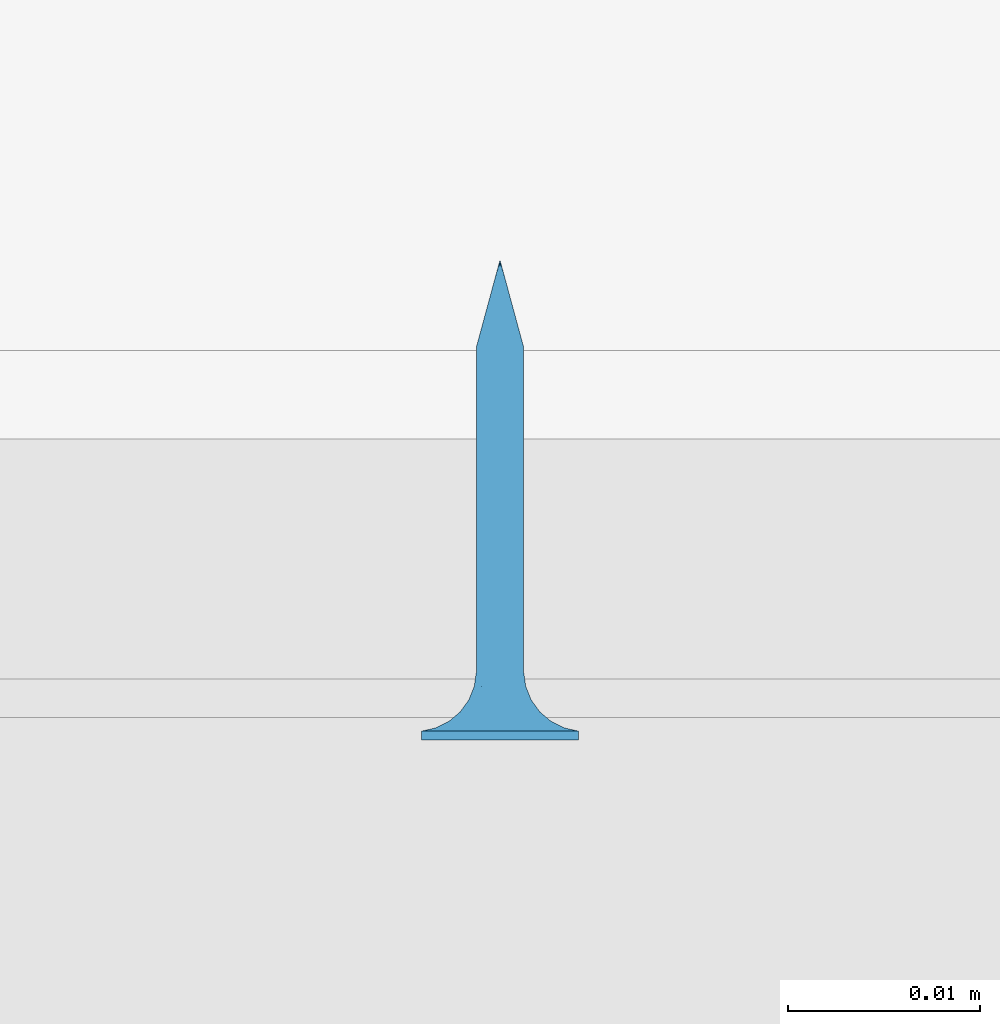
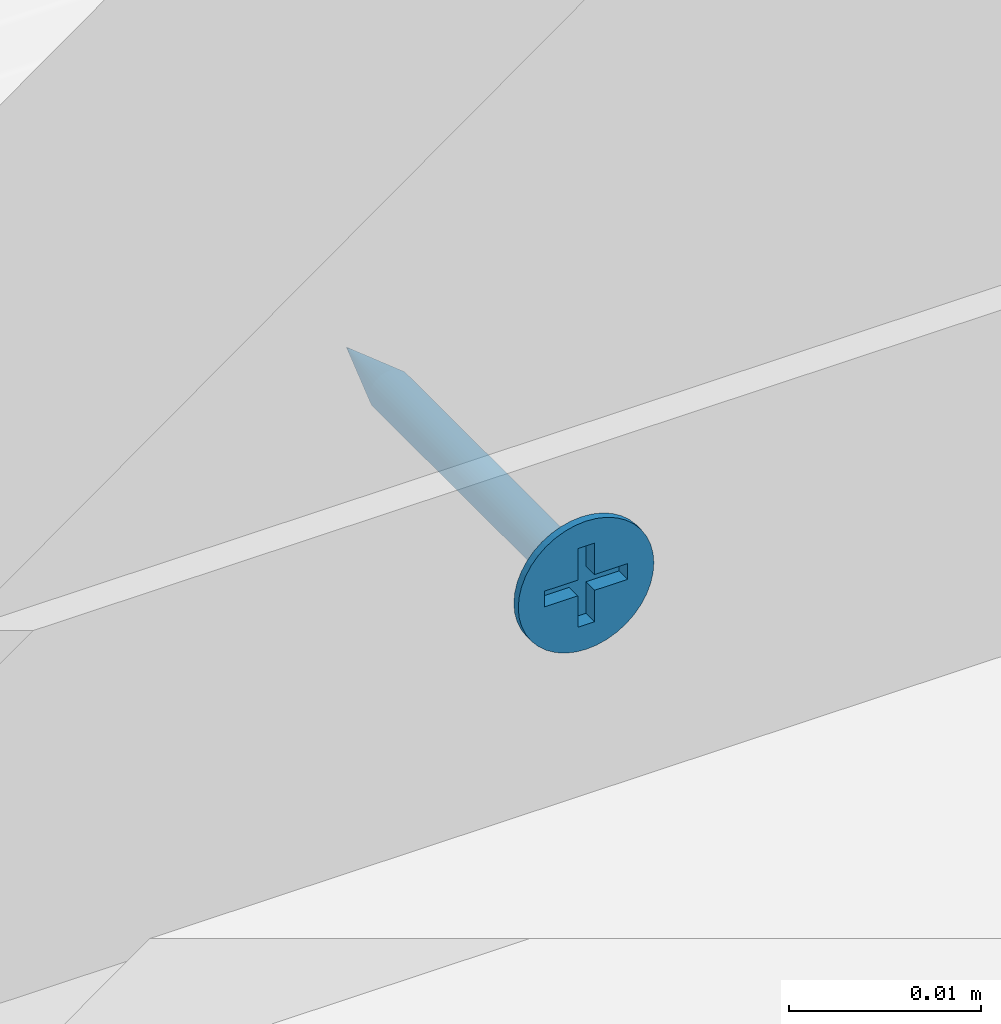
# One storey, part 25 of 79: 1 slab.
"""IFC2X3 building model written with IfcOpenShell, lengths in millimetres."""

from ifc_helpers import new_model, entity, si_unit, converted_unit, direction, frame, origin, origin_with_axes, place, context, project, spatial, faceted_brep, element, save


model = new_model("IFC2X3")

# Units and contexts
model_context = context("Model", 3, precision=1e-05, world=origin(), true_north=direction((0.0, 1.0, 0.0)))
ifc_project = project(units=[si_unit("LENGTHUNIT", "METRE", prefix="MILLI"), si_unit("AREAUNIT", "SQUARE_METRE"), si_unit("VOLUMEUNIT", "CUBIC_METRE"), converted_unit("PLANEANGLEUNIT", "DEGREE", entity("IfcPlaneAngleMeasure", 0.01745), si_unit("PLANEANGLEUNIT", "RADIAN"), dimensions=[0, 0, 0, 0, 0, 0, 0]), si_unit("SOLIDANGLEUNIT", "STERADIAN"), si_unit("MASSUNIT", "GRAM"), si_unit("TIMEUNIT", "SECOND"), si_unit("THERMODYNAMICTEMPERATUREUNIT", "DEGREE_CELSIUS"), si_unit("LUMINOUSINTENSITYUNIT", "LUMEN")], contexts=[model_context])

# Site, building, storey
site_placement = place(None, origin_with_axes())
site = spatial("IfcSite", under=ifc_project, at=site_placement, Name="Default Site", CompositionType="ELEMENT")
building_placement = place(site_placement, origin_with_axes())
building = spatial("IfcBuilding", under=site, at=building_placement, Name="Default Building", CompositionType="ELEMENT")
storey_placement = place(building_placement, origin_with_axes())
storey = spatial("IfcBuildingStorey", under=building, at=storey_placement, Name="Default Building Storey", CompositionType="ELEMENT", Elevation=0.0)

# Slab
slab_placement = place(storey_placement, frame((3180.499834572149, 5017.24186699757, 440.6779499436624), z_axis=(0.0, 0.0, 1.0), x_axis=(1.0, 0.0, 0.0)))
element("IfcSlab", 1, at=slab_placement, inside=storey, Name="Łącznik mechaniczny", context=model_context, shape_type="Brep", body=[
    faceted_brep([(-136.5890362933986, -3387.475459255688, 554.9298199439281), (-136.4636235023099, -3387.475459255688, 555.0766594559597), (-136.4636235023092, -3370.55807436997, 555.0766594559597), (-136.5890362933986, -3370.55807436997, 554.9298199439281), (-136.9005263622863, -3387.475459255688, 554.7035091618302), (-136.9005263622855, -3370.55807436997, 554.7035091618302), (-137.0789337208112, -3370.55807436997, 554.6296104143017), (-137.078933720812, -3387.475459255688, 554.6296104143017), (-137.2667048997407, -3387.475459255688, 554.5845305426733), (-137.2667048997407, -3370.55807436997, 554.5845305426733), (-137.4592163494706, -3370.55807436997, 554.5693795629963), (-137.4592163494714, -3387.475459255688, 554.5693795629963), (-136.4636235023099, -3387.475459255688, 556.5233405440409), (-136.5890362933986, -3387.475459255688, 556.6701800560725), (-136.5890362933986, -3370.55807436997, 556.6701800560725), (-136.4636235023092, -3370.55807436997, 556.5233405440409), (-138.4548091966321, -3370.55807436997, 556.5233405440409), (-138.3293964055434, -3370.55807436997, 556.6701800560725), (-138.3293964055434, -3387.475459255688, 556.6701800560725), (-138.4548091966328, -3387.475459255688, 556.5233405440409), (-136.7358758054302, -3370.55807436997, 554.8044071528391), (-136.7358758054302, -3387.475459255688, 554.8044071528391), (-138.1825568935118, -3387.475459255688, 556.7955928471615), (-138.1825568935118, -3370.55807436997, 556.7955928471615), (-138.0179063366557, -3370.55807436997, 556.8964908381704), (-138.0179063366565, -3387.475459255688, 556.8964908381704), (-136.3627255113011, -3387.475459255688, 556.3586899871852), (-136.3627255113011, -3370.55807436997, 556.3586899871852), (-136.7358758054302, -3387.475459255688, 556.7955928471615), (-136.7358758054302, -3370.55807436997, 556.7955928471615), (-137.6517277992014, -3387.475459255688, 554.5845305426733), (-137.6517277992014, -3370.55807436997, 554.5845305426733), (-137.83949897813, -3370.55807436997, 554.6296104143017), (-137.8394989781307, -3387.475459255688, 554.6296104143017), (-136.3627255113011, -3387.475459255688, 555.241310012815), (-136.3627255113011, -3370.55807436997, 555.241310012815), (-138.0179063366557, -3370.55807436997, 554.7035091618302), (-138.0179063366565, -3387.475459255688, 554.7035091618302), (-138.6746858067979, -3370.55807436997, 555.6074885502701), (-138.6898367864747, -3370.55807436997, 555.8000000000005), (-138.6898367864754, -3387.475459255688, 555.8000000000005), (-138.6746858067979, -3387.475459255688, 555.6074885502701), (-136.2285959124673, -3387.475459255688, 555.8000000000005), (-136.2437468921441, -3387.475459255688, 555.9925114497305), (-136.2437468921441, -3370.55807436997, 555.9925114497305), (-136.2285959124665, -3370.55807436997, 555.8000000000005), (-138.3293964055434, -3370.55807436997, 554.9298199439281), (-138.4548091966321, -3370.55807436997, 555.0766594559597), (-138.4548091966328, -3387.475459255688, 555.0766594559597), (-138.3293964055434, -3387.475459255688, 554.9298199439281), (-137.83949897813, -3370.55807436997, 556.9703895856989), (-137.8394989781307, -3387.475459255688, 556.9703895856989), (-138.1825568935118, -3370.55807436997, 554.8044071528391), (-138.1825568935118, -3387.475459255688, 554.8044071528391), (-138.5557071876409, -3370.55807436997, 555.241310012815), (-138.6296059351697, -3370.55807436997, 555.4197173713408), (-138.6296059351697, -3387.475459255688, 555.4197173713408), (-138.5557071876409, -3387.475459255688, 555.241310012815), (-136.2888267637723, -3387.475459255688, 555.4197173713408), (-136.2437468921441, -3387.475459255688, 555.6074885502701), (-136.2437468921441, -3370.55807436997, 555.6074885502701), (-136.2888267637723, -3370.55807436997, 555.4197173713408), (-136.2888267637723, -3387.475459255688, 556.1802826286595), (-136.2888267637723, -3370.55807436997, 556.1802826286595), (-137.4592163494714, -3387.475459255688, 557.0306204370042), (-137.4592163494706, -3370.55807436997, 557.0306204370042), (-137.2667048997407, -3370.55807436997, 557.0154694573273), (-137.2667048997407, -3387.475459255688, 557.0154694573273), (-137.0789337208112, -3370.55807436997, 556.9703895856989), (-137.078933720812, -3387.475459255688, 556.9703895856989), (-137.6517277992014, -3387.475459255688, 557.0154694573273), (-137.6517277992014, -3370.55807436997, 557.0154694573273), (-136.9005263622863, -3387.475459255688, 556.8964908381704), (-136.9005263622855, -3370.55807436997, 556.8964908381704), (-138.6296059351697, -3370.55807436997, 556.1802826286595), (-138.5557071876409, -3370.55807436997, 556.3586899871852), (-138.5557071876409, -3387.475459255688, 556.3586899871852), (-138.6296059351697, -3387.475459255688, 556.1802826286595), (-138.6746858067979, -3370.55807436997, 555.9925114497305), (-138.6746858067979, -3387.475459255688, 555.9925114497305), (-141.5377463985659, -3390.556721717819, 555.8000000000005), (-141.5377463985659, -3391.020944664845, 555.8000000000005), (-141.4875329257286, -3391.020944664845, 555.1619773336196), (-141.4875329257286, -3390.556721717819, 555.1619773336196), (-141.338128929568, -3391.020944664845, 554.539664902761), (-141.338128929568, -3390.556721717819, 554.539664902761), (-141.0932132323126, -3391.020944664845, 553.948386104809), (-141.0932132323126, -3390.556721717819, 553.948386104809), (-140.7588164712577, -3391.020944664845, 553.4027001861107), (-140.7588164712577, -3390.556721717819, 553.4027001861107), (-140.3431726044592, -3391.020944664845, 552.9160437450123), (-140.4541727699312, -3390.556721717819, 553.0314907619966), (-140.1080097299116, -3390.556721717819, 552.6986614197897), (-139.8565161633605, -3391.020944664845, 552.5003998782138), (-139.7251262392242, -3390.556721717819, 552.4088262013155), (-139.3108302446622, -3391.020944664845, 552.1660031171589), (-139.3108302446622, -3390.556721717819, 552.1660031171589), (-138.8708651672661, -3390.556721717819, 551.9735584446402), (-138.7195514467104, -3391.020944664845, 551.9210874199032), (-138.4113302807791, -3390.556721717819, 551.8341600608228), (-137.9385961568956, -3390.556721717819, 551.7497404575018), (-138.0972390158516, -3391.020944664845, 551.7716834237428), (-137.4592163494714, -3391.020944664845, 551.7214699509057), (-137.4592163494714, -3390.556721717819, 551.7214699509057), (-136.8211936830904, -3391.020944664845, 551.7716834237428), (-136.8211936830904, -3390.556721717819, 551.7716834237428), (-136.1988812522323, -3391.020944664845, 551.9210874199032), (-136.1988812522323, -3390.556721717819, 551.9210874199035), (-135.6076024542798, -3391.020944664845, 552.1660031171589), (-135.6076024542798, -3390.556721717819, 552.1660031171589), (-135.0619165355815, -3391.020944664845, 552.5003998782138), (-135.0619165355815, -3390.556721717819, 552.5003998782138), (-134.5752600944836, -3391.020944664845, 552.9160437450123), (-134.5752600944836, -3390.556721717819, 552.9160437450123), (-134.1596162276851, -3391.020944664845, 553.4027001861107), (-134.1596162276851, -3390.556721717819, 553.4027001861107), (-133.8252194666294, -3391.020944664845, 553.948386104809), (-133.8252194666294, -3390.556721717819, 553.948386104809), (-133.580303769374, -3391.020944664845, 554.539664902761), (-133.580303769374, -3390.556721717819, 554.539664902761), (-133.4308997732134, -3391.020944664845, 556.438022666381), (-133.4308997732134, -3390.556721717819, 556.438022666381), (-133.3806863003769, -3390.556721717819, 555.8000000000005), (-133.3806863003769, -3391.020944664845, 555.8000000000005), (-133.4308997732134, -3390.556721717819, 555.1619773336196), (-133.4308997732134, -3391.020944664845, 555.1619773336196), (-133.580303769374, -3391.020944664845, 557.0603350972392), (-133.580303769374, -3390.556721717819, 557.0603350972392), (-133.8252194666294, -3391.020944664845, 557.6516138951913), (-133.8252194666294, -3390.556721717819, 557.6516138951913), (-134.1596162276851, -3391.020944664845, 558.1972998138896), (-134.1596162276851, -3390.556721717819, 558.1972998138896), (-134.5752600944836, -3391.020944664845, 558.683956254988), (-134.5752600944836, -3390.556721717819, 558.683956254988), (-135.0619165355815, -3391.020944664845, 559.0996001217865), (-135.0619165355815, -3390.556721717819, 559.0996001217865), (-135.6076024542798, -3391.020944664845, 559.4339968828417), (-135.6076024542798, -3390.556721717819, 559.4339968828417), (-136.1988812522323, -3391.020944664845, 559.6789125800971), (-136.1988812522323, -3390.556721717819, 559.6789125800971), (-136.8211936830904, -3391.020944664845, 559.8283165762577), (-136.8211936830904, -3390.556721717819, 559.8283165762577), (-137.4592163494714, -3391.020944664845, 559.8785300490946), (-137.4592163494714, -3390.556721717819, 559.8785300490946), (-138.0972390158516, -3391.020944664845, 559.8283165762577), (-138.0972390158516, -3390.556721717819, 559.8283165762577), (-138.7195514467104, -3391.020944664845, 559.6789125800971), (-138.7195514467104, -3390.556721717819, 559.6789125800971), (-139.3108302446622, -3391.020944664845, 559.4339968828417), (-139.3108302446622, -3390.556721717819, 559.4339968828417), (-139.8565161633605, -3391.020944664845, 559.0996001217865), (-139.8565161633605, -3390.556721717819, 559.0996001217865), (-140.3431726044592, -3391.020944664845, 558.683956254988), (-140.3431726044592, -3390.556721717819, 558.683956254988), (-140.7588164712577, -3391.020944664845, 558.1972998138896), (-140.7588164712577, -3390.556721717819, 558.1972998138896), (-141.0932132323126, -3391.020944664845, 557.6516138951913), (-141.0932132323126, -3390.556721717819, 557.6516138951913), (-141.338128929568, -3391.020944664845, 557.0603350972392), (-141.338128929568, -3390.556721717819, 557.0603350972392), (-141.4875329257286, -3391.020944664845, 556.438022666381), (-141.4875329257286, -3390.556721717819, 556.438022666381), (-137.8060615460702, -3388.229732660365, 554.5055560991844), (-137.4592163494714, -3388.229732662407, 554.4598930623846), (-138.1292698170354, -3388.229732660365, 554.6394333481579), (-138.4068150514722, -3388.229732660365, 554.8524012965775), (-138.6197830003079, -3388.229732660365, 555.1299465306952), (-138.7536602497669, -3388.229732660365, 555.4531548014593), (-138.7993232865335, -3388.229732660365, 555.7999999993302), (-138.7536602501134, -3388.229732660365, 556.1468451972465), (-138.6197830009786, -3388.229732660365, 556.4700534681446), (-138.4068150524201, -3388.229732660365, 556.7475987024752), (-138.1292698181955, -3388.229732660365, 556.9605666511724), (-137.8060615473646, -3388.229732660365, 557.0944439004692), (-137.4592163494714, -3388.229732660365, 557.1401069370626), (-137.1123711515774, -3388.229732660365, 557.0944439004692), (-136.7891628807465, -3388.229732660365, 556.9605666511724), (-136.5116176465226, -3388.229732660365, 556.7475987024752), (-136.2986496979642, -3388.229732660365, 556.4700534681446), (-136.1647724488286, -3388.229732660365, 556.1468451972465), (-136.1191094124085, -3388.229732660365, 555.7999999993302), (-136.1647724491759, -3388.229732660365, 555.4531548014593), (-136.2986496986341, -3388.229732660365, 555.1299465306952), (-136.5116176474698, -3388.229732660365, 554.8524012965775), (-136.7891628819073, -3388.229732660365, 554.6394333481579), (-137.1123711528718, -3388.229732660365, 554.5055560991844), (-137.4592163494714, -3388.936142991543, 554.1737111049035), (-137.8801308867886, -3388.936142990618, 554.2291255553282), (-138.2723607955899, -3388.936142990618, 554.39159250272), (-138.6091762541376, -3388.936142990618, 554.6500400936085), (-138.8676238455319, -3388.936142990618, 554.9868555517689), (-139.0300907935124, -3388.936142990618, 555.3790854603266), (-139.0855052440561, -3388.936142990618, 555.7999999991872), (-139.0300907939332, -3388.936142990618, 556.2209145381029), (-138.8676238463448, -3388.936142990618, 556.6131444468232), (-138.6091762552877, -3388.936142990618, 556.949959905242), (-138.2723607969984, -3388.936142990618, 557.2084074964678), (-137.8801308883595, -3388.936142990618, 557.3708744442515), (-137.4592163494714, -3388.936142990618, 557.4262888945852), (-137.0383018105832, -3388.936142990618, 557.3708744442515), (-136.6460719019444, -3388.936142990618, 557.2084074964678), (-136.3092564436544, -3388.936142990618, 556.949959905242), (-136.0508088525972, -3388.936142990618, 556.6131444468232), (-135.8883419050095, -3388.936142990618, 556.2209145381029), (-135.8329274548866, -3388.936142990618, 555.7999999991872), (-135.8883419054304, -3388.936142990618, 555.3790854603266), (-136.0508088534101, -3388.936142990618, 554.9868555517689), (-136.3092564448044, -3388.936142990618, 554.6500400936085), (-136.6460719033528, -3388.936142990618, 554.39159250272), (-137.0383018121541, -3388.936142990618, 554.2291255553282), (-137.4592163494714, -3389.553938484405, 553.727343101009), (-137.9956594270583, -3389.553938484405, 553.7979671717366), (-138.4955447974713, -3389.553938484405, 554.0050264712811), (-138.9248060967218, -3389.553938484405, 554.3344102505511), (-139.2541898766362, -3389.553938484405, 554.7636715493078), (-139.46124917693, -3389.553938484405, 555.2635569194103), (-139.5318732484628, -3389.553938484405, 555.7999999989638), (-139.4612491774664, -3389.553938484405, 556.3364430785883), (-139.2541898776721, -3389.553938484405, 556.8363284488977), (-138.9248060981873, -3389.553938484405, 557.2655897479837), (-138.495544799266, -3389.553938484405, 557.5949735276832), (-137.9956594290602, -3389.553938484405, 557.8020328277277), (-137.4592163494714, -3389.553938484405, 557.8726568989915), (-136.9227732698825, -3389.553938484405, 557.8020328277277), (-136.422887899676, -3389.553938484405, 557.5949735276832), (-135.9936266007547, -3389.553938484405, 557.2655897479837), (-135.6642428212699, -3389.553938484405, 556.8363284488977), (-135.4571835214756, -3389.553938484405, 556.3364430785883), (-135.3865594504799, -3389.553938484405, 555.7999999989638), (-135.457183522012, -3389.553938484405, 555.2635569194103), (-135.6642428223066, -3389.553938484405, 554.7636715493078), (-135.9936266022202, -3389.553938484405, 554.3344102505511), (-136.4228879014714, -3389.553938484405, 554.0050264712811), (-136.9227732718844, -3389.553938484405, 553.7979671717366), (-137.4592163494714, -3390.04747944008, 553.1465393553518), (-138.1459824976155, -3390.047479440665, 553.2369538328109), (-138.7859466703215, -3390.047479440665, 553.5020356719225), (-139.3354963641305, -3390.047479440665, 553.9237199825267), (-139.757180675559, -3390.047479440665, 554.4732696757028), (-140.0222625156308, -3390.047479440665, 555.1132338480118), (-140.1126769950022, -3390.047479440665, 555.7999999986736), (-140.0222625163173, -3390.047479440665, 556.4867661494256), (-139.7571806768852, -3390.047479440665, 557.1267303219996), (-139.3354963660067, -3390.047479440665, 557.6762800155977), (-138.7859466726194, -3390.047479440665, 558.0979643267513), (-138.1459825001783, -3390.047479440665, 558.3630461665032), (-137.4592163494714, -3390.047479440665, 558.4534606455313), (-136.7724501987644, -3390.047479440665, 558.3630461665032), (-136.1324860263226, -3390.047479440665, 558.0979643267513), (-135.5829363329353, -3390.047479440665, 557.6762800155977), (-135.1612520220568, -3390.047479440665, 557.1267303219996), (-134.8961701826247, -3390.047479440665, 556.4867661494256), (-134.8057557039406, -3390.047479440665, 555.7999999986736), (-134.8961701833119, -3390.047479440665, 555.1132338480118), (-135.1612520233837, -3390.047479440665, 554.4732696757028), (-135.5829363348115, -3390.047479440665, 553.9237199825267), (-136.1324860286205, -3390.047479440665, 553.5020356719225), (-136.7724502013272, -3390.047479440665, 553.2369538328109), (-137.4592163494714, -3390.388294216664, 552.4648055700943), (-138.3224281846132, -3390.388294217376, 552.5784495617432), (-139.1268135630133, -3390.388294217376, 552.9116368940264), (-139.8175549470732, -3390.388294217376, 553.4416613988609), (-140.3475794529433, -3390.388294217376, 554.1324027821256), (-140.6807667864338, -3390.388294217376, 554.9367881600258), (-140.7944107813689, -3390.388294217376, 555.7999999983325), (-140.6807667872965, -3390.388294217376, 556.6632118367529), (-140.3475794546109, -3390.388294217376, 557.4675972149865), (-139.8175549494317, -3390.388294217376, 558.1583385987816), (-139.1268135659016, -3390.388294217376, 558.6883631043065), (-138.3224281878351, -3390.388294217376, 559.0215504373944), (-137.4592163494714, -3390.388294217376, 559.1351944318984), (-136.5960045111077, -3390.388294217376, 559.0215504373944), (-135.7916191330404, -3390.388294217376, 558.6883631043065), (-135.1008777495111, -3390.388294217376, 558.1583385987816), (-134.5708532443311, -3390.388294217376, 557.4675972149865), (-134.2376659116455, -3390.388294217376, 556.6632118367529), (-134.1240219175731, -3390.388294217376, 555.7999999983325), (-134.2376659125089, -3390.388294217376, 554.9367881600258), (-134.5708532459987, -3390.388294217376, 554.1324027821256), (-135.1008777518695, -3390.388294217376, 553.4416613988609), (-135.7916191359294, -3390.388294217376, 552.9116368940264), (-136.5960045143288, -3390.388294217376, 552.5784495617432), (-137.4592163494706, -3366.021033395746, 555.8000000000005), (-139.9592163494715, -3391.020944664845, 556.3000000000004), (-137.9592163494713, -3391.020944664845, 556.3000000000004), (-139.9592163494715, -3391.020944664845, 555.3000000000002), (-137.9592163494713, -3391.020944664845, 555.3000000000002), (-137.9592163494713, -3391.020944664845, 553.3000000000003), (-136.9592163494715, -3391.020944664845, 553.3000000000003), (-136.9592163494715, -3391.020944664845, 555.3000000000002), (-134.9592163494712, -3391.020944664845, 555.3000000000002), (-134.9592163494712, -3391.020944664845, 556.3000000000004), (-136.9592163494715, -3391.020944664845, 556.3000000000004), (-136.9592163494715, -3391.020944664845, 558.3000000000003), (-137.9592163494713, -3391.020944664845, 558.3000000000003), (-136.9592163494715, -3390.128974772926, 556.3000000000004), (-134.9592163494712, -3390.128974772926, 556.3000000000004), (-134.9592163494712, -3390.128974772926, 555.3000000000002), (-136.9592163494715, -3390.128974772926, 555.3000000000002), (-136.9592163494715, -3390.128974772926, 553.3000000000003), (-137.9592163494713, -3390.128974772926, 553.3000000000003), (-137.9592163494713, -3390.128974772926, 555.3000000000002), (-139.9592163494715, -3390.128974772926, 555.3000000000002), (-139.9592163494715, -3390.128974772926, 556.3000000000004), (-137.9592163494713, -3390.128974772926, 556.3000000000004), (-137.9592163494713, -3390.128974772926, 558.3000000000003), (-136.9592163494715, -3390.128974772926, 558.3000000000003)], [[[0, 1, 2, 3]], [[4, 5, 6, 7]], [[8, 9, 10, 11]], [[12, 13, 14, 15]], [[16, 17, 18, 19]], [[0, 3, 20, 21]], [[22, 23, 24, 25]], [[26, 12, 15, 27]], [[28, 29, 14, 13]], [[30, 31, 32, 33]], [[1, 34, 35, 2]], [[18, 17, 23, 22]], [[7, 6, 9, 8]], [[33, 32, 36, 37]], [[38, 39, 40, 41]], [[42, 43, 44, 45]], [[46, 47, 48, 49]], [[25, 24, 50, 51]], [[37, 36, 52, 53]], [[54, 55, 56, 57]], [[53, 52, 46, 49]], [[47, 54, 57, 48]], [[58, 59, 60, 61]], [[59, 42, 45, 60]], [[43, 62, 63, 44]], [[64, 65, 66, 67]], [[67, 66, 68, 69]], [[55, 38, 41, 56]], [[70, 71, 65, 64]], [[72, 73, 29, 28]], [[74, 75, 76, 77]], [[69, 68, 73, 72]], [[39, 78, 79, 40]], [[75, 16, 19, 76]], [[62, 26, 27, 63]], [[11, 10, 31, 30]], [[21, 20, 5, 4]], [[34, 58, 61, 35]], [[51, 50, 71, 70]], [[78, 74, 77, 79]], [[80, 81, 82, 83]], [[84, 85, 83, 82]], [[86, 87, 85, 84]], [[87, 86, 88, 89]], [[88, 90, 89]], [[90, 91, 89]], [[92, 91, 93]], [[91, 90, 93]], [[93, 94, 92]], [[93, 95, 94]], [[95, 96, 94]], [[97, 96, 98]], [[96, 95, 98]], [[98, 99, 97]], [[100, 99, 101]], [[99, 98, 101]], [[101, 102, 100]], [[102, 103, 100]], [[103, 102, 104, 105]], [[106, 107, 105, 104]], [[108, 109, 107, 106]], [[109, 108, 110, 111]], [[112, 113, 111, 110]], [[113, 112, 114, 115]], [[116, 117, 115, 114]], [[118, 119, 117, 116]], [[120, 121, 122, 123]], [[123, 122, 124, 125]], [[119, 118, 125, 124]], [[126, 127, 121, 120]], [[128, 129, 127, 126]], [[129, 128, 130, 131]], [[132, 133, 131, 130]], [[133, 132, 134, 135]], [[136, 137, 135, 134]], [[138, 139, 137, 136]], [[139, 138, 140, 141]], [[142, 143, 141, 140]], [[143, 142, 144, 145]], [[146, 147, 145, 144]], [[148, 149, 147, 146]], [[149, 148, 150, 151]], [[152, 153, 151, 150]], [[153, 152, 154, 155]], [[156, 157, 155, 154]], [[158, 159, 157, 156]], [[159, 158, 160, 161]], [[81, 80, 161, 160]], [[162, 11, 30]], [[162, 163, 11]], [[30, 33, 162]], [[162, 33, 164]], [[37, 164, 33]], [[164, 37, 53]], [[53, 165, 164]], [[53, 49, 165]], [[166, 49, 48]], [[166, 165, 49]], [[48, 57, 166]], [[166, 57, 167]], [[56, 167, 57]], [[167, 56, 41]], [[41, 168, 167]], [[41, 40, 168]], [[169, 40, 79]], [[169, 168, 40]], [[79, 77, 169]], [[169, 77, 170]], [[76, 170, 77]], [[170, 76, 19]], [[19, 171, 170]], [[19, 18, 171]], [[172, 18, 22]], [[172, 171, 18]], [[22, 25, 172]], [[172, 25, 173]], [[51, 173, 25]], [[173, 51, 70]], [[70, 174, 173]], [[70, 64, 174]], [[175, 64, 67]], [[175, 174, 64]], [[67, 69, 175]], [[175, 69, 176]], [[72, 176, 69]], [[176, 72, 28]], [[28, 177, 176]], [[28, 13, 177]], [[178, 13, 12]], [[178, 177, 13]], [[12, 26, 178]], [[178, 26, 179]], [[62, 179, 26]], [[179, 62, 43]], [[43, 180, 179]], [[43, 42, 180]], [[181, 42, 59]], [[181, 180, 42]], [[59, 58, 181]], [[181, 58, 182]], [[34, 182, 58]], [[182, 34, 1]], [[1, 183, 182]], [[1, 0, 183]], [[184, 0, 21]], [[184, 183, 0]], [[21, 4, 184]], [[184, 4, 185]], [[7, 185, 4]], [[185, 7, 8]], [[8, 163, 185]], [[8, 11, 163]], [[186, 163, 187]], [[162, 187, 163]], [[164, 188, 187, 162]], [[165, 189, 188, 164]], [[166, 190, 189, 165]], [[167, 191, 190, 166]], [[168, 192, 191, 167]], [[169, 193, 192, 168]], [[170, 194, 193, 169]], [[171, 195, 194, 170]], [[172, 196, 195, 171]], [[173, 197, 196, 172]], [[174, 198, 197, 173]], [[175, 199, 198, 174]], [[176, 200, 199, 175]], [[177, 201, 200, 176]], [[178, 202, 201, 177]], [[179, 203, 202, 178]], [[180, 204, 203, 179]], [[181, 205, 204, 180]], [[182, 206, 205, 181]], [[183, 207, 206, 182]], [[184, 208, 207, 183]], [[185, 209, 208, 184]], [[185, 163, 209]], [[186, 209, 163]], [[210, 186, 211]], [[187, 211, 186]], [[188, 212, 211, 187]], [[189, 213, 212, 188]], [[190, 214, 213, 189]], [[191, 215, 214, 190]], [[192, 216, 215, 191]], [[193, 217, 216, 192]], [[194, 218, 217, 193]], [[195, 219, 218, 194]], [[196, 220, 219, 195]], [[197, 221, 220, 196]], [[198, 222, 221, 197]], [[199, 223, 222, 198]], [[200, 224, 223, 199]], [[201, 225, 224, 200]], [[202, 226, 225, 201]], [[203, 227, 226, 202]], [[204, 228, 227, 203]], [[205, 229, 228, 204]], [[206, 230, 229, 205]], [[207, 231, 230, 206]], [[208, 232, 231, 207]], [[209, 233, 232, 208]], [[209, 186, 233]], [[210, 233, 186]], [[234, 210, 235]], [[211, 235, 210]], [[212, 236, 235, 211]], [[213, 237, 236, 212]], [[214, 238, 237, 213]], [[215, 239, 238, 214]], [[216, 240, 239, 215]], [[217, 241, 240, 216]], [[218, 242, 241, 217]], [[219, 243, 242, 218]], [[220, 244, 243, 219]], [[221, 245, 244, 220]], [[222, 246, 245, 221]], [[223, 247, 246, 222]], [[224, 248, 247, 223]], [[225, 249, 248, 224]], [[226, 250, 249, 225]], [[227, 251, 250, 226]], [[228, 252, 251, 227]], [[229, 253, 252, 228]], [[230, 254, 253, 229]], [[231, 255, 254, 230]], [[232, 256, 255, 231]], [[233, 257, 256, 232]], [[233, 210, 257]], [[234, 257, 210]], [[258, 99, 100]], [[258, 259, 99]], [[100, 103, 258]], [[258, 234, 259]], [[235, 259, 234]], [[259, 96, 97]], [[259, 260, 96]], [[97, 99, 259]], [[236, 260, 259, 235]], [[261, 91, 92]], [[260, 92, 94]], [[260, 261, 92]], [[94, 96, 260]], [[237, 261, 260, 236]], [[262, 87, 89]], [[89, 261, 262]], [[89, 91, 261]], [[238, 262, 261, 237]], [[85, 87, 263]], [[262, 263, 87]], [[239, 263, 262, 238]], [[263, 80, 83]], [[263, 264, 80]], [[83, 85, 263]], [[240, 264, 263, 239]], [[265, 159, 161]], [[161, 264, 265]], [[161, 80, 264]], [[241, 265, 264, 240]], [[265, 266, 157, 159]], [[242, 266, 265, 241]], [[266, 153, 155]], [[266, 267, 153]], [[155, 157, 266]], [[243, 267, 266, 242]], [[268, 149, 151]], [[151, 267, 268]], [[151, 153, 267]], [[244, 268, 267, 243]], [[268, 269, 147, 149]], [[245, 269, 268, 244]], [[269, 143, 145]], [[269, 270, 143]], [[145, 147, 269]], [[246, 270, 269, 245]], [[271, 139, 141]], [[141, 270, 271]], [[141, 143, 270]], [[247, 271, 270, 246]], [[271, 272, 137, 139]], [[248, 272, 271, 247]], [[272, 133, 135]], [[272, 273, 133]], [[135, 137, 272]], [[249, 273, 272, 248]], [[274, 129, 131]], [[131, 273, 274]], [[131, 133, 273]], [[250, 274, 273, 249]], [[274, 275, 127, 129]], [[251, 275, 274, 250]], [[275, 122, 121]], [[275, 276, 122]], [[121, 127, 275]], [[252, 276, 275, 251]], [[277, 119, 124]], [[124, 276, 277]], [[124, 122, 276]], [[253, 277, 276, 252]], [[117, 119, 278]], [[277, 278, 119]], [[254, 278, 277, 253]], [[278, 113, 115]], [[278, 279, 113]], [[115, 117, 278]], [[255, 279, 278, 254]], [[280, 109, 111]], [[111, 279, 280]], [[111, 113, 279]], [[256, 280, 279, 255]], [[107, 109, 281]], [[280, 281, 109]], [[257, 281, 280, 256]], [[257, 234, 281]], [[258, 281, 234]], [[281, 103, 105]], [[281, 258, 103]], [[105, 107, 281]], [[38, 55, 282]], [[282, 39, 38]], [[55, 54, 282]], [[47, 46, 282]], [[282, 54, 47]], [[52, 36, 282]], [[282, 46, 52]], [[36, 32, 282]], [[31, 10, 282]], [[282, 32, 31]], [[9, 6, 282]], [[282, 10, 9]], [[6, 5, 282]], [[20, 3, 282]], [[282, 5, 20]], [[2, 35, 282]], [[282, 3, 2]], [[35, 61, 282]], [[60, 45, 282]], [[282, 61, 60]], [[44, 63, 282]], [[282, 45, 44]], [[63, 27, 282]], [[15, 14, 282]], [[282, 27, 15]], [[29, 73, 282]], [[282, 14, 29]], [[73, 68, 282]], [[66, 65, 282]], [[282, 68, 66]], [[71, 50, 282]], [[282, 65, 71]], [[50, 24, 282]], [[23, 17, 282]], [[282, 24, 23]], [[16, 75, 282]], [[282, 17, 16]], [[75, 74, 282]], [[78, 39, 282]], [[282, 74, 78]], [[283, 156, 154, 284]], [[283, 285, 286, 287, 288, 289, 290, 291, 292, 293, 294, 284, 154, 152, 150, 148, 146, 144, 142, 140, 138, 136, 134, 132, 130, 128, 126, 120, 123, 125, 118, 116, 114, 112, 110, 108, 106, 104, 102, 101, 98, 95, 93, 90, 88, 86, 84, 82, 81, 160, 158, 156]], [[295, 296, 297, 298, 299, 300, 301, 302, 303, 304, 305, 306]], [[297, 290, 289, 298]], [[296, 291, 290, 297]], [[295, 292, 291, 296]], [[306, 293, 292, 295]], [[305, 294, 293, 306]], [[304, 284, 294, 305]], [[303, 283, 284, 304]], [[302, 285, 283, 303]], [[301, 286, 285, 302]], [[300, 287, 286, 301]], [[299, 288, 287, 300]], [[298, 289, 288, 299]]]),
])

save(model, "model.ifc")
